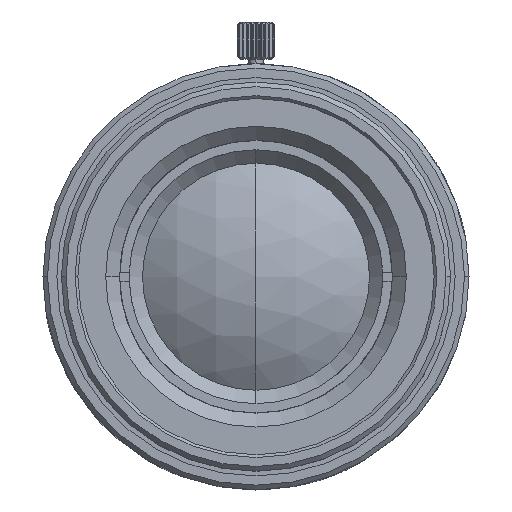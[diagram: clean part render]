
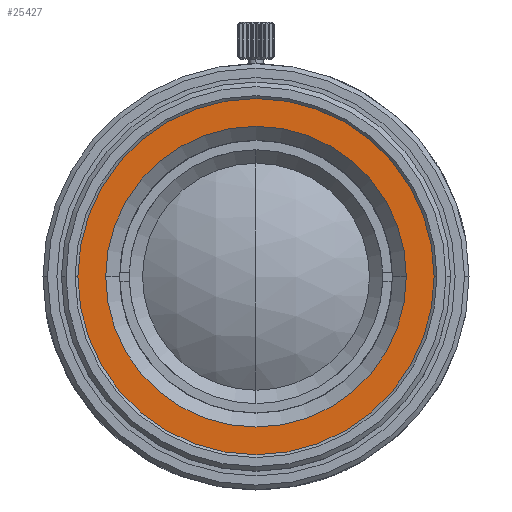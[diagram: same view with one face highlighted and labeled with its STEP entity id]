
A CAD part, top view. The second image highlights one B-rep face of the part: STEP entity #25427.
In plain terms, the highlighted planar face has unit normal (0, 0, 1).
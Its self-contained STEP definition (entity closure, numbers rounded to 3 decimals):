
#2363 = EDGE_CURVE ( 'NONE', #26612, #16936, #29699, .T. ) ;
#2780 = FACE_BOUND ( 'NONE', #12846, .T. ) ;
#3312 = CARTESIAN_POINT ( 'NONE',  ( 0., 0., 18.4 ) ) ;
#3728 = AXIS2_PLACEMENT_3D ( 'NONE', #3312, #23156, #28024 ) ;
#4153 = CIRCLE ( 'NONE', #20288, 19.729 ) ;
#5166 = AXIS2_PLACEMENT_3D ( 'NONE', #12561, #12721, #30248 ) ;
#6506 = DIRECTION ( 'NONE',  ( 1., 0., 0. ) ) ;
#6865 = DIRECTION ( 'NONE',  ( -1., 0., 0. ) ) ;
#7429 = CARTESIAN_POINT ( 'NONE',  ( -16.229, 0., 18.4 ) ) ;
#7587 = CARTESIAN_POINT ( 'NONE',  ( 19.729, 0., 18.4 ) ) ;
#7634 = AXIS2_PLACEMENT_3D ( 'NONE', #29280, #11411, #6506 ) ;
#8159 = DIRECTION ( 'NONE',  ( -1., 0., 0. ) ) ;
#8922 = CARTESIAN_POINT ( 'NONE',  ( -19.729, 0., 18.4 ) ) ;
#10104 = FACE_OUTER_BOUND ( 'NONE', #12083, .T. ) ;
#10490 = EDGE_CURVE ( 'NONE', #26568, #27530, #25986, .T. ) ;
#10754 = PLANE ( 'NONE',  #5166 ) ;
#11411 = DIRECTION ( 'NONE',  ( 0., 0., -1. ) ) ;
#12083 = EDGE_LOOP ( 'NONE', ( #19478, #23906 ) ) ;
#12561 = CARTESIAN_POINT ( 'NONE',  ( 0., -19.729, 18.4 ) ) ;
#12721 = DIRECTION ( 'NONE',  ( 0., 0., -1. ) ) ;
#12808 = ORIENTED_EDGE ( 'NONE', *, *, #2363, .T. ) ;
#12846 = EDGE_LOOP ( 'NONE', ( #12808, #26726 ) ) ;
#16936 = VERTEX_POINT ( 'NONE', #22631 ) ;
#18735 = AXIS2_PLACEMENT_3D ( 'NONE', #19263, #29149, #6865 ) ;
#19263 = CARTESIAN_POINT ( 'NONE',  ( 0., 0., 18.4 ) ) ;
#19478 = ORIENTED_EDGE ( 'NONE', *, *, #28156, .T. ) ;
#20288 = AXIS2_PLACEMENT_3D ( 'NONE', #20694, #30422, #8159 ) ;
#20694 = CARTESIAN_POINT ( 'NONE',  ( 0., 0., 18.4 ) ) ;
#22631 = CARTESIAN_POINT ( 'NONE',  ( 16.229, 0., 18.4 ) ) ;
#22717 = CIRCLE ( 'NONE', #7634, 16.229 ) ;
#23156 = DIRECTION ( 'NONE',  ( 0., 0., -1. ) ) ;
#23906 = ORIENTED_EDGE ( 'NONE', *, *, #10490, .T. ) ;
#25427 = ADVANCED_FACE ( 'NONE', ( #2780, #10104 ), #10754, .F. ) ;
#25986 = CIRCLE ( 'NONE', #18735, 19.729 ) ;
#26568 = VERTEX_POINT ( 'NONE', #7587 ) ;
#26612 = VERTEX_POINT ( 'NONE', #7429 ) ;
#26726 = ORIENTED_EDGE ( 'NONE', *, *, #30327, .T. ) ;
#27530 = VERTEX_POINT ( 'NONE', #8922 ) ;
#28024 = DIRECTION ( 'NONE',  ( 1., 0., 0. ) ) ;
#28156 = EDGE_CURVE ( 'NONE', #27530, #26568, #4153, .T. ) ;
#29149 = DIRECTION ( 'NONE',  ( 0., 0., 1. ) ) ;
#29280 = CARTESIAN_POINT ( 'NONE',  ( 0., 0., 18.4 ) ) ;
#29699 = CIRCLE ( 'NONE', #3728, 16.229 ) ;
#30248 = DIRECTION ( 'NONE',  ( 1., 0., 0. ) ) ;
#30327 = EDGE_CURVE ( 'NONE', #16936, #26612, #22717, .T. ) ;
#30422 = DIRECTION ( 'NONE',  ( 0., 0., 1. ) ) ;
